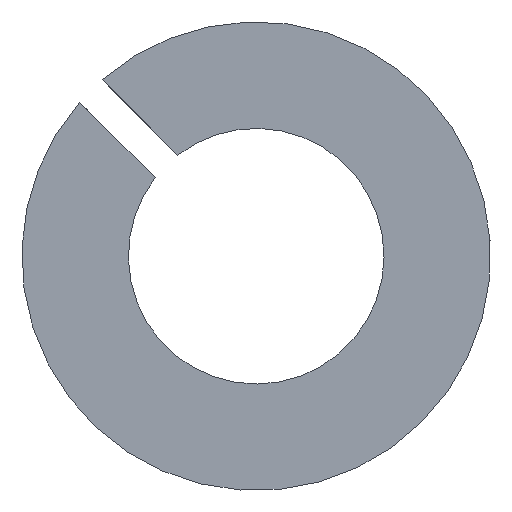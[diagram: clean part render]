
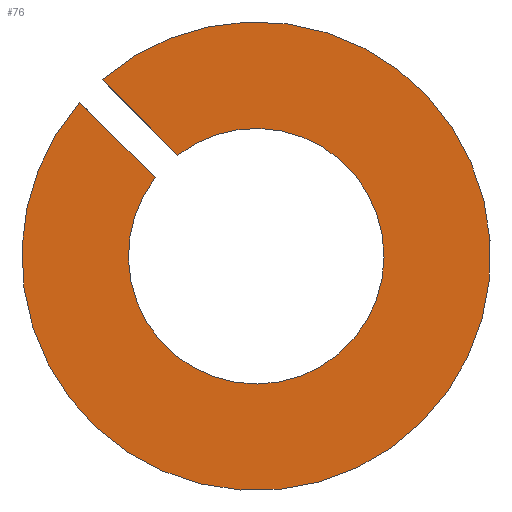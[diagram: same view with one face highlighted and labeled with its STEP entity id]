
A CAD part, left-side view. The second image highlights one B-rep face of the part: STEP entity #76.
In plain terms, the highlighted planar face has unit normal (-1, 0, 0).
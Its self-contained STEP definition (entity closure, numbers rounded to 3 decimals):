
#76 = ADVANCED_FACE( '', ( #92 ), #93, .T. );
#92 = FACE_OUTER_BOUND( '', #120, .T. );
#93 = PLANE( '', #121 );
#120 = EDGE_LOOP( '', ( #153, #154, #155, #156 ) );
#121 = AXIS2_PLACEMENT_3D( '', #157, #158, #159 );
#153 = ORIENTED_EDGE( '', *, *, #264, .T. );
#154 = ORIENTED_EDGE( '', *, *, #265, .T. );
#155 = ORIENTED_EDGE( '', *, *, #260, .F. );
#156 = ORIENTED_EDGE( '', *, *, #266, .T. );
#157 = CARTESIAN_POINT( '', ( 0., 11., 0. ) );
#158 = DIRECTION( '', ( -1., 0., 0. ) );
#159 = DIRECTION( '', ( 0., 0., 1. ) );
#260 = EDGE_CURVE( '', #296, #297, #298, .T. );
#264 = EDGE_CURVE( '', #304, #305, #306, .T. );
#265 = EDGE_CURVE( '', #305, #297, #307, .T. );
#266 = EDGE_CURVE( '', #296, #304, #308, .T. );
#296 = VERTEX_POINT( '', #356 );
#297 = VERTEX_POINT( '', #357 );
#298 = CIRCLE( '', #358, 11. );
#304 = VERTEX_POINT( '', #366 );
#305 = VERTEX_POINT( '', #367 );
#306 = CIRCLE( '', #368, 6. );
#307 = LINE( '', #369, #370 );
#308 = LINE( '', #371, #372 );
#356 = CARTESIAN_POINT( '', ( 0., 7.23, 8.29 ) );
#357 = CARTESIAN_POINT( '', ( 0., 8.29, 7.23 ) );
#358 = AXIS2_PLACEMENT_3D( '', #440, #441, #442 );
#366 = CARTESIAN_POINT( '', ( 0., 3.679, 4.74 ) );
#367 = CARTESIAN_POINT( '', ( 0., 4.74, 3.679 ) );
#368 = AXIS2_PLACEMENT_3D( '', #448, #449, #450 );
#369 = CARTESIAN_POINT( '', ( 0., 4.419, 3.359 ) );
#370 = VECTOR( '', #451, 1000. );
#371 = CARTESIAN_POINT( '', ( 0., 7.601, 8.662 ) );
#372 = VECTOR( '', #452, 1000. );
#440 = CARTESIAN_POINT( '', ( 0., 0., 0. ) );
#441 = DIRECTION( '', ( 1., 0., 0. ) );
#442 = DIRECTION( '', ( 0., 0., -1. ) );
#448 = CARTESIAN_POINT( '', ( 0., 0., 0. ) );
#449 = DIRECTION( '', ( 1., 0., 0. ) );
#450 = DIRECTION( '', ( 0., 0., -1. ) );
#451 = DIRECTION( '', ( 0., 0.707, 0.707 ) );
#452 = DIRECTION( '', ( 0., -0.707, -0.707 ) );
